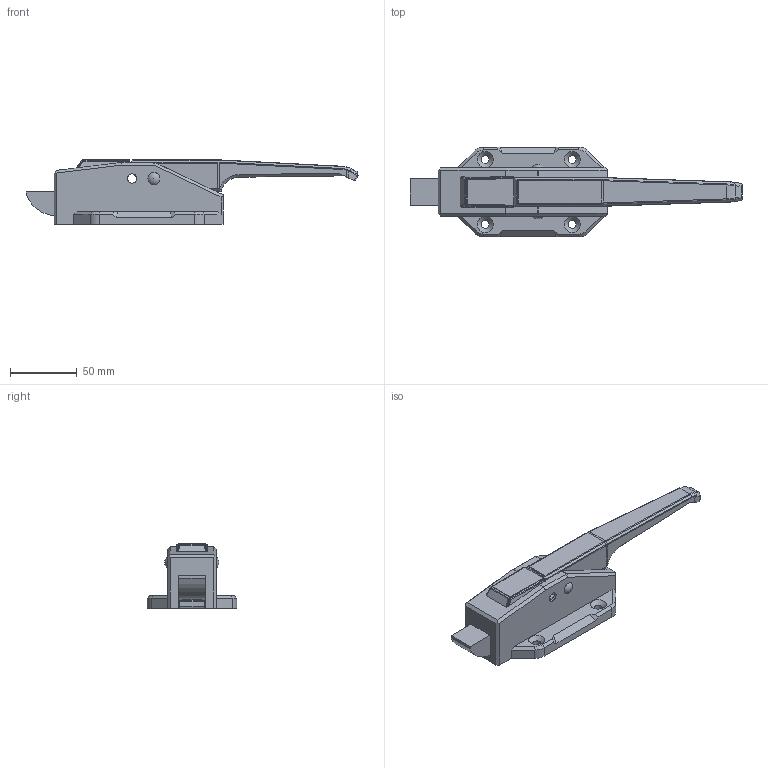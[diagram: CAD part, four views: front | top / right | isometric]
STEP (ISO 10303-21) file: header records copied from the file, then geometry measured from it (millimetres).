
FILE_DESCRIPTION(/* description */ (''),/* implementation_level */ '2;1');
FILE_NAME(/* name */ '\\NAS\db20\D-203\DR_D-203.stp',/* time_stamp */ '2017-07-26T10:04:58+09:00',/* author */ ('user'),/* organization */ (''),/* preprocessor_version */ 'ST-DEVELOPER v15.6',/* originating_system */ 'Autodesk Inventor 2015',/* authorisation */ '');
FILE_SCHEMA (('AUTOMOTIVE_DESIGN { 1 0 10303 214 3 1 1 }'));
Length unit declared in the file: millimetre
Products named in the file (6): DR_D-203; DR_D-203-L; DR_D-203-P; DR_D-203-PI; DR_D-203-H
Bounding box: 247.94 x 66.83 x 48.24 mm (x, y, z)
Volume: 113870.6 mm3; surface area: 72140.3 mm2
Topology: 5 solids, 5 shells, 793 faces, 1941 edges, 1159 vertices
Faces by surface type: cylinder 292, plane 287, torus 105, sphere 58, bspline 31, cone 20
Full cylindrical faces by diameter (mm): 3.6 x4, 4.3 x2, 5.929 x2, 6 x6, 6.2 x2, 7 x2, 10.4 x4, 11 x4, 13.568 x1
Entity records: 23547 total; most frequent: CARTESIAN_POINT 4685, DIRECTION 4162, ORIENTED_EDGE 3724, EDGE_CURVE 1862, AXIS2_PLACEMENT_3D 1573, VERTEX_POINT 1140, LINE 1016, VECTOR 1016
